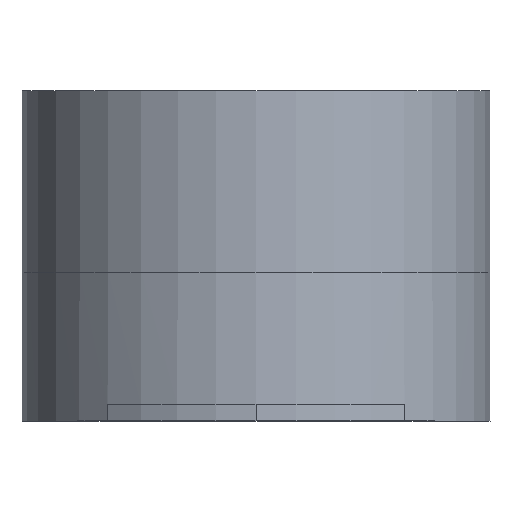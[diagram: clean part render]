
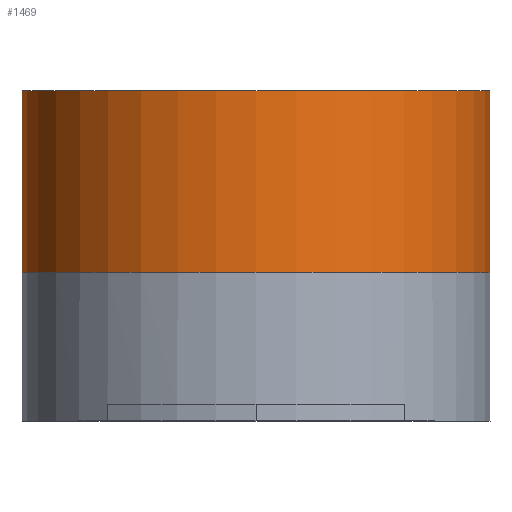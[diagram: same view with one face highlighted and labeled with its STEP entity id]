
A CAD part, top view. The second image highlights one B-rep face of the part: STEP entity #1469.
In plain terms, the highlighted cylindrical face has radius 45.009 mm (diameter 90.018 mm), a partial arc.
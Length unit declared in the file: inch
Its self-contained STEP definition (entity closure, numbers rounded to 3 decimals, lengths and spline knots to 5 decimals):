
#5 = EDGE_CURVE ( 'Defeatured_0_21+Defeatured_0_8+Defeatured_0_9+Defeatured_0_11', #4777, #2368, #1602, .T. ) ;
#10 = DIRECTION ( 'NONE',  ( 0., 0., -1. ) ) ;
#39 = DIRECTION ( 'NONE',  ( 0., 1., 0. ) ) ;
#161 = ORIENTED_EDGE ( 'NONE', *, *, #3318, .T. ) ;
#186 = CARTESIAN_POINT ( 'NONE',  ( -1.15059, -4.91977, 0.06887 ) ) ;
#198 = DIRECTION ( 'NONE',  ( 0., -1., 0. ) ) ;
#200 = CARTESIAN_POINT ( 'NONE',  ( -2.72534, -3.54477, 0.88137 ) ) ;
#203 = ORIENTED_EDGE ( 'NONE', *, *, #3690, .F. ) ;
#264 = DIRECTION ( 'NONE',  ( 0., 1., 0. ) ) ;
#293 = VERTEX_POINT ( 'NONE', #2289 ) ;
#346 = CARTESIAN_POINT ( 'NONE',  ( -1.15059, -4.14577, 0.06887 ) ) ;
#521 = CARTESIAN_POINT ( 'NONE',  ( -4.30008, -3.54477, 0.06887 ) ) ;
#650 = VECTOR ( 'NONE', #2071, 39.37008 ) ;
#710 = DIRECTION ( 'NONE',  ( 0., 1., 0. ) ) ;
#728 = DIRECTION ( 'NONE',  ( 0., 0., -1. ) ) ;
#748 = ORIENTED_EDGE ( 'NONE', *, *, #3052, .F. ) ;
#950 = VERTEX_POINT ( 'NONE', #4643 ) ;
#962 = CIRCLE ( 'NONE', #2967, 1.772 ) ;
#1015 = CARTESIAN_POINT ( 'NONE',  ( -1.60759, -4.91977, -0.49363 ) ) ;
#1255 = VERTEX_POINT ( 'NONE', #3059 ) ;
#1261 = CARTESIAN_POINT ( 'NONE',  ( -3.84309, -4.91977, -0.49363 ) ) ;
#1300 = AXIS2_PLACEMENT_3D ( 'NONE', #2615, #39, #10 ) ;
#1310 = ORIENTED_EDGE ( 'NONE', *, *, #5, .F. ) ;
#1367 = ORIENTED_EDGE ( 'NONE', *, *, #4144, .F. ) ;
#1394 = AXIS2_PLACEMENT_3D ( 'NONE', #1663, #4633, #4606 ) ;
#1445 = VERTEX_POINT ( 'NONE', #346 ) ;
#1469 = ADVANCED_FACE ( 'Defeatured_0_8', ( #4545 ), #1533, .T. ) ;
#1473 = CARTESIAN_POINT ( 'NONE',  ( -2.72534, -4.14577, 0.88137 ) ) ;
#1481 = VERTEX_POINT ( 'NONE', #521 ) ;
#1503 = EDGE_CURVE ( 'Defeatured_0_10+Defeatured_0_8+Defeatured_0_20+Defeatured_0_17', #1481, #1255, #4314, .T. ) ;
#1533 = CYLINDRICAL_SURFACE ( 'NONE', #1394, 1.772 ) ;
#1581 = CIRCLE ( 'NONE', #1967, 1.772 ) ;
#1590 = ORIENTED_EDGE ( 'NONE', *, *, #4694, .T. ) ;
#1602 = LINE ( 'NONE', #1741, #3572 ) ;
#1642 = AXIS2_PLACEMENT_3D ( 'NONE', #200, #4588, #2777 ) ;
#1663 = CARTESIAN_POINT ( 'NONE',  ( -2.72534, -4.91977, 0.88137 ) ) ;
#1666 = CARTESIAN_POINT ( 'NONE',  ( -1.60759, -4.91977, -0.49363 ) ) ;
#1696 = EDGE_CURVE ( 'Defeatured_0_8+Defeatured_0_9+Defeatured_0_32+Defeatured_0_21', #3171, #4050, #962, .T. ) ;
#1735 = EDGE_CURVE ( 'Defeatured_0_8+Defeatured_0_32+Defeatured_0_9+Defeatured_0_9', #2553, #3171, #2114, .T. ) ;
#1741 = CARTESIAN_POINT ( 'NONE',  ( -3.84309, -4.91977, -0.49363 ) ) ;
#1774 = ORIENTED_EDGE ( 'NONE', *, *, #3750, .T. ) ;
#1967 = AXIS2_PLACEMENT_3D ( 'NONE', #2410, #198, #2773 ) ;
#1990 = ORIENTED_EDGE ( 'NONE', *, *, #1696, .T. ) ;
#2002 = LINE ( 'NONE', #2197, #2302 ) ;
#2071 = DIRECTION ( 'NONE',  ( 0., -1., 0. ) ) ;
#2081 = CARTESIAN_POINT ( 'NONE',  ( -4.30008, -4.91977, 0.06887 ) ) ;
#2114 = CIRCLE ( 'NONE', #3378, 1.772 ) ;
#2189 = CARTESIAN_POINT ( 'NONE',  ( -3.84309, -4.14577, -0.49363 ) ) ;
#2197 = CARTESIAN_POINT ( 'NONE',  ( -1.15059, -4.91977, 0.06887 ) ) ;
#2223 = CIRCLE ( 'NONE', #1300, 1.772 ) ;
#2226 = DIRECTION ( 'NONE',  ( 0., 0., -1. ) ) ;
#2289 = CARTESIAN_POINT ( 'NONE',  ( -1.60759, -4.14577, -0.49363 ) ) ;
#2302 = VECTOR ( 'NONE', #2591, 39.37008 ) ;
#2368 = VERTEX_POINT ( 'NONE', #2189 ) ;
#2410 = CARTESIAN_POINT ( 'NONE',  ( -2.72534, -4.14577, 0.88137 ) ) ;
#2553 = VERTEX_POINT ( 'NONE', #3781 ) ;
#2591 = DIRECTION ( 'NONE',  ( 0., -1., 0. ) ) ;
#2615 = CARTESIAN_POINT ( 'NONE',  ( -2.72534, -4.91977, 0.88137 ) ) ;
#2773 = DIRECTION ( 'NONE',  ( 0., 0., -1. ) ) ;
#2777 = DIRECTION ( 'NONE',  ( 0., 0., -1. ) ) ;
#2967 = AXIS2_PLACEMENT_3D ( 'NONE', #4760, #710, #728 ) ;
#3052 = EDGE_CURVE ( 'Defeatured_0_21+Defeatured_0_8+Defeatured_0_11+Defeatured_0_9', #293, #4050, #4691, .T. ) ;
#3059 = CARTESIAN_POINT ( 'NONE',  ( -1.15059, -3.54477, 0.06887 ) ) ;
#3171 = VERTEX_POINT ( 'NONE', #186 ) ;
#3318 = EDGE_CURVE ( 'Defeatured_0_8+Defeatured_0_9+Defeatured_0_21+Defeatured_0_32', #4777, #2553, #2223, .T. ) ;
#3326 = DIRECTION ( 'NONE',  ( 0., 1., 0. ) ) ;
#3378 = AXIS2_PLACEMENT_3D ( 'NONE', #4796, #3326, #3713 ) ;
#3572 = VECTOR ( 'NONE', #4723, 39.37008 ) ;
#3631 = CIRCLE ( 'NONE', #3872, 1.772 ) ;
#3690 = EDGE_CURVE ( 'Defeatured_0_20+Defeatured_0_8+Defeatured_0_11+Defeatured_0_10', #950, #1481, #3780, .T. ) ;
#3700 = EDGE_LOOP ( 'NONE', ( #748, #1774, #1367, #4060, #203, #1590, #1310, #161, #4505, #1990 ) ) ;
#3713 = DIRECTION ( 'NONE',  ( 0., 0., -1. ) ) ;
#3750 = EDGE_CURVE ( 'Defeatured_0_8+Defeatured_0_11+Defeatured_0_21+Defeatured_0_17', #293, #1445, #1581, .T. ) ;
#3780 = LINE ( 'NONE', #2081, #3896 ) ;
#3781 = CARTESIAN_POINT ( 'NONE',  ( -4.30008, -4.91977, 0.06887 ) ) ;
#3872 = AXIS2_PLACEMENT_3D ( 'NONE', #1473, #4434, #2226 ) ;
#3896 = VECTOR ( 'NONE', #264, 39.37008 ) ;
#4050 = VERTEX_POINT ( 'NONE', #1015 ) ;
#4060 = ORIENTED_EDGE ( 'NONE', *, *, #1503, .F. ) ;
#4144 = EDGE_CURVE ( 'Defeatured_0_17+Defeatured_0_8+Defeatured_0_10+Defeatured_0_11', #1255, #1445, #2002, .T. ) ;
#4314 = CIRCLE ( 'NONE', #1642, 1.772 ) ;
#4434 = DIRECTION ( 'NONE',  ( 0., -1., 0. ) ) ;
#4505 = ORIENTED_EDGE ( 'NONE', *, *, #1735, .T. ) ;
#4545 = FACE_OUTER_BOUND ( 'NONE', #3700, .T. ) ;
#4588 = DIRECTION ( 'NONE',  ( 0., 1., 0. ) ) ;
#4606 = DIRECTION ( 'NONE',  ( 0., 0., -1. ) ) ;
#4633 = DIRECTION ( 'NONE',  ( 0., 1., 0. ) ) ;
#4643 = CARTESIAN_POINT ( 'NONE',  ( -4.30008, -4.14577, 0.06887 ) ) ;
#4691 = LINE ( 'NONE', #1666, #650 ) ;
#4694 = EDGE_CURVE ( 'Defeatured_0_8+Defeatured_0_11+Defeatured_0_20+Defeatured_0_21', #950, #2368, #3631, .T. ) ;
#4723 = DIRECTION ( 'NONE',  ( 0., 1., 0. ) ) ;
#4760 = CARTESIAN_POINT ( 'NONE',  ( -2.72534, -4.91977, 0.88137 ) ) ;
#4777 = VERTEX_POINT ( 'NONE', #1261 ) ;
#4796 = CARTESIAN_POINT ( 'NONE',  ( -2.72534, -4.91977, 0.88137 ) ) ;
